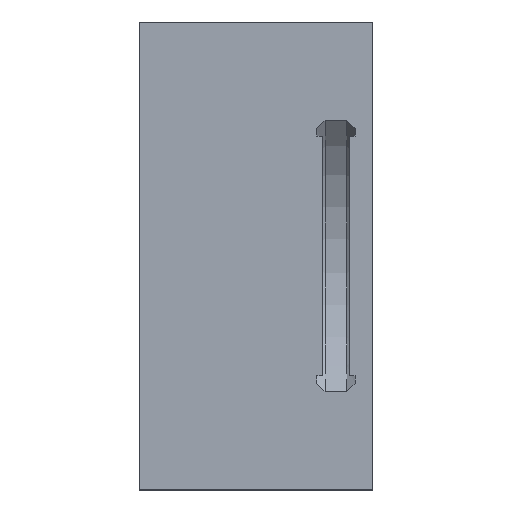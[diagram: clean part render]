
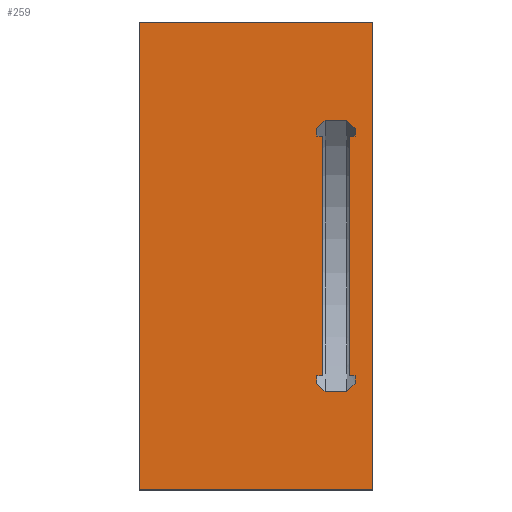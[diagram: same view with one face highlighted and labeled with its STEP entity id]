
A CAD part, top view. The second image highlights one B-rep face of the part: STEP entity #259.
In plain terms, the highlighted planar face has unit normal (0, 0, 1).
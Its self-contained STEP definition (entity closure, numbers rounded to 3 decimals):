
#33=B_SPLINE_CURVE_WITH_KNOTS('',3,(#399,#400,#401,#402),.UNSPECIFIED.,
 .F.,.F.,(4,4),(0.079,0.082),.UNSPECIFIED.);
#34=B_SPLINE_CURVE_WITH_KNOTS('',3,(#406,#407,#408,#409),.UNSPECIFIED.,
 .F.,.F.,(4,4),(0.,0.003),.UNSPECIFIED.);
#35=B_SPLINE_CURVE_WITH_KNOTS('',3,(#421,#422,#423,#424),.UNSPECIFIED.,
 .F.,.F.,(4,4),(0.079,0.082),.UNSPECIFIED.);
#36=B_SPLINE_CURVE_WITH_KNOTS('',3,(#428,#429,#430,#431),.UNSPECIFIED.,
 .F.,.F.,(4,4),(0.,0.003),.UNSPECIFIED.);
#37=ORIENTED_EDGE('',*,*,#109,.F.);
#38=ORIENTED_EDGE('',*,*,#110,.F.);
#39=ORIENTED_EDGE('',*,*,#111,.T.);
#40=ORIENTED_EDGE('',*,*,#112,.T.);
#41=ORIENTED_EDGE('',*,*,#113,.T.);
#42=ORIENTED_EDGE('',*,*,#114,.T.);
#43=ORIENTED_EDGE('',*,*,#115,.T.);
#44=ORIENTED_EDGE('',*,*,#116,.T.);
#45=ORIENTED_EDGE('',*,*,#117,.T.);
#46=ORIENTED_EDGE('',*,*,#118,.T.);
#47=ORIENTED_EDGE('',*,*,#119,.T.);
#48=ORIENTED_EDGE('',*,*,#120,.T.);
#49=ORIENTED_EDGE('',*,*,#121,.T.);
#50=ORIENTED_EDGE('',*,*,#122,.T.);
#51=ORIENTED_EDGE('',*,*,#123,.T.);
#52=ORIENTED_EDGE('',*,*,#124,.T.);
#53=ORIENTED_EDGE('',*,*,#125,.T.);
#54=ORIENTED_EDGE('',*,*,#126,.T.);
#55=ORIENTED_EDGE('',*,*,#127,.T.);
#56=ORIENTED_EDGE('',*,*,#128,.T.);
#109=EDGE_CURVE('',#145,#146,#169,.T.);
#110=EDGE_CURVE('',#147,#145,#170,.T.);
#111=EDGE_CURVE('',#147,#148,#171,.T.);
#112=EDGE_CURVE('',#148,#146,#172,.T.);
#113=EDGE_CURVE('',#149,#150,#173,.F.);
#114=EDGE_CURVE('',#150,#151,#174,.T.);
#115=EDGE_CURVE('',#151,#152,#33,.T.);
#116=EDGE_CURVE('',#152,#153,#175,.T.);
#117=EDGE_CURVE('',#153,#154,#34,.T.);
#118=EDGE_CURVE('',#154,#155,#176,.T.);
#119=EDGE_CURVE('',#155,#156,#177,.F.);
#120=EDGE_CURVE('',#156,#157,#178,.T.);
#121=EDGE_CURVE('',#157,#158,#179,.T.);
#122=EDGE_CURVE('',#158,#159,#180,.T.);
#123=EDGE_CURVE('',#159,#160,#35,.T.);
#124=EDGE_CURVE('',#160,#161,#181,.F.);
#125=EDGE_CURVE('',#161,#162,#36,.T.);
#126=EDGE_CURVE('',#162,#163,#182,.T.);
#127=EDGE_CURVE('',#163,#164,#183,.T.);
#128=EDGE_CURVE('',#164,#149,#184,.T.);
#145=VERTEX_POINT('',#387);
#146=VERTEX_POINT('',#388);
#147=VERTEX_POINT('',#390);
#148=VERTEX_POINT('',#392);
#149=VERTEX_POINT('',#395);
#150=VERTEX_POINT('',#396);
#151=VERTEX_POINT('',#398);
#152=VERTEX_POINT('',#403);
#153=VERTEX_POINT('',#405);
#154=VERTEX_POINT('',#410);
#155=VERTEX_POINT('',#412);
#156=VERTEX_POINT('',#414);
#157=VERTEX_POINT('',#416);
#158=VERTEX_POINT('',#418);
#159=VERTEX_POINT('',#420);
#160=VERTEX_POINT('',#425);
#161=VERTEX_POINT('',#427);
#162=VERTEX_POINT('',#432);
#163=VERTEX_POINT('',#434);
#164=VERTEX_POINT('',#436);
#169=LINE('',#386,#193);
#170=LINE('',#389,#194);
#171=LINE('',#391,#195);
#172=LINE('',#393,#196);
#173=LINE('',#394,#197);
#174=LINE('',#397,#198);
#175=LINE('',#404,#199);
#176=LINE('',#411,#200);
#177=LINE('',#413,#201);
#178=LINE('',#415,#202);
#179=LINE('',#417,#203);
#180=LINE('',#419,#204);
#181=LINE('',#426,#205);
#182=LINE('',#433,#206);
#183=LINE('',#435,#207);
#184=LINE('',#437,#208);
#193=VECTOR('',#316,1000.);
#194=VECTOR('',#317,1000.);
#195=VECTOR('',#318,1000.);
#196=VECTOR('',#319,1000.);
#197=VECTOR('',#320,1000.);
#198=VECTOR('',#321,1000.);
#199=VECTOR('',#322,1000.);
#200=VECTOR('',#323,1000.);
#201=VECTOR('',#324,1000.);
#202=VECTOR('',#325,1000.);
#203=VECTOR('',#326,1000.);
#204=VECTOR('',#327,1000.);
#205=VECTOR('',#328,1000.);
#206=VECTOR('',#329,1000.);
#207=VECTOR('',#330,1000.);
#208=VECTOR('',#331,1000.);
#217=EDGE_LOOP('',(#37,#38,#39,#40));
#218=EDGE_LOOP('',(#41,#42,#43,#44,#45,#46,#47,#48,#49,#50,#51,#52,#53,
#54,#55,#56));
#233=FACE_BOUND('',#217,.T.);
#234=FACE_BOUND('',#218,.T.);
#249=PLANE('',#289);
#259=ADVANCED_FACE('',(#233,#234),#249,.T.);
#289=AXIS2_PLACEMENT_3D('',#385,#314,#315);
#314=DIRECTION('',(0.,0.,1.));
#315=DIRECTION('',(1.,0.,0.));
#316=DIRECTION('',(0.,-1.,0.));
#317=DIRECTION('',(1.,0.,0.));
#318=DIRECTION('',(0.,-1.,0.));
#319=DIRECTION('',(1.,0.,0.));
#320=DIRECTION('',(1.,0.,0.));
#321=DIRECTION('',(0.,1.,0.));
#322=DIRECTION('',(1.,0.,0.));
#323=DIRECTION('',(0.,-1.,0.));
#324=DIRECTION('',(1.,0.,0.));
#325=DIRECTION('',(0.,-1.,0.));
#326=DIRECTION('',(1.,0.,0.));
#327=DIRECTION('',(0.,-1.,0.));
#328=DIRECTION('',(1.,0.,0.));
#329=DIRECTION('',(0.,1.,0.));
#330=DIRECTION('',(1.,0.,0.));
#331=DIRECTION('',(0.,1.,0.));
#385=CARTESIAN_POINT('',(-60.,60.,9.5));
#386=CARTESIAN_POINT('',(0.,60.,9.5));
#387=CARTESIAN_POINT('',(0.,60.,9.5));
#388=CARTESIAN_POINT('',(0.,-60.,9.5));
#389=CARTESIAN_POINT('',(-60.,60.,9.5));
#390=CARTESIAN_POINT('',(-60.,60.,9.5));
#391=CARTESIAN_POINT('',(-60.,60.,9.5));
#392=CARTESIAN_POINT('',(-60.,-60.,9.5));
#393=CARTESIAN_POINT('',(-60.,-60.,9.5));
#394=CARTESIAN_POINT('',(0.,30.754,9.5));
#395=CARTESIAN_POINT('',(-13.,30.754,9.5));
#396=CARTESIAN_POINT('',(-14.4,30.754,9.5));
#397=CARTESIAN_POINT('',(-14.4,60.,9.5));
#398=CARTESIAN_POINT('',(-14.4,32.621,9.5));
#399=CARTESIAN_POINT('',(-14.4,32.621,9.5));
#400=CARTESIAN_POINT('',(-13.707,33.346,9.5));
#401=CARTESIAN_POINT('',(-13.006,34.065,9.5));
#402=CARTESIAN_POINT('',(-12.3,34.779,9.5));
#403=CARTESIAN_POINT('',(-12.3,34.779,9.5));
#404=CARTESIAN_POINT('',(0.,34.779,9.5));
#405=CARTESIAN_POINT('',(-6.7,34.779,9.5));
#406=CARTESIAN_POINT('',(-6.7,34.779,9.5));
#407=CARTESIAN_POINT('',(-5.993,34.065,9.5));
#408=CARTESIAN_POINT('',(-5.293,33.346,9.5));
#409=CARTESIAN_POINT('',(-4.6,32.621,9.5));
#410=CARTESIAN_POINT('',(-4.6,32.621,9.5));
#411=CARTESIAN_POINT('',(-4.6,60.,9.5));
#412=CARTESIAN_POINT('',(-4.6,30.754,9.5));
#413=CARTESIAN_POINT('',(0.,30.754,9.5));
#414=CARTESIAN_POINT('',(-6.,30.754,9.5));
#415=CARTESIAN_POINT('',(-6.,60.,9.5));
#416=CARTESIAN_POINT('',(-6.,-30.754,9.5));
#417=CARTESIAN_POINT('',(0.,-30.754,9.5));
#418=CARTESIAN_POINT('',(-4.6,-30.754,9.5));
#419=CARTESIAN_POINT('',(-4.6,60.,9.5));
#420=CARTESIAN_POINT('',(-4.6,-32.621,9.5));
#421=CARTESIAN_POINT('',(-4.6,-32.621,9.5));
#422=CARTESIAN_POINT('',(-5.293,-33.346,9.5));
#423=CARTESIAN_POINT('',(-5.994,-34.065,9.5));
#424=CARTESIAN_POINT('',(-6.7,-34.779,9.5));
#425=CARTESIAN_POINT('',(-6.7,-34.779,9.5));
#426=CARTESIAN_POINT('',(0.,-34.779,9.5));
#427=CARTESIAN_POINT('',(-12.3,-34.779,9.5));
#428=CARTESIAN_POINT('',(-12.3,-34.779,9.5));
#429=CARTESIAN_POINT('',(-13.007,-34.065,9.5));
#430=CARTESIAN_POINT('',(-13.707,-33.346,9.5));
#431=CARTESIAN_POINT('',(-14.4,-32.621,9.5));
#432=CARTESIAN_POINT('',(-14.4,-32.621,9.5));
#433=CARTESIAN_POINT('',(-14.4,60.,9.5));
#434=CARTESIAN_POINT('',(-14.4,-30.754,9.5));
#435=CARTESIAN_POINT('',(0.,-30.754,9.5));
#436=CARTESIAN_POINT('',(-13.,-30.754,9.5));
#437=CARTESIAN_POINT('',(-13.,60.,9.5));
